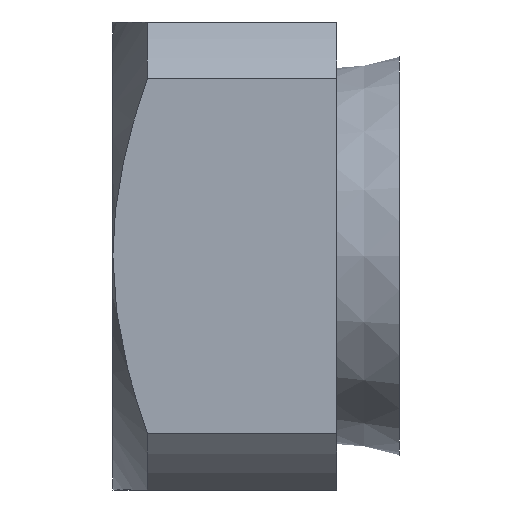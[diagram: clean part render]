
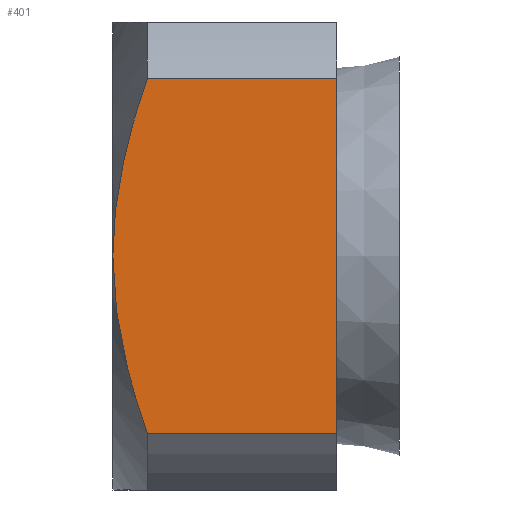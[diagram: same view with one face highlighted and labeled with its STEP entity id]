
A CAD part, left-side view. The second image highlights one B-rep face of the part: STEP entity #401.
In plain terms, the highlighted planar face has unit normal (-1, 0, 0).
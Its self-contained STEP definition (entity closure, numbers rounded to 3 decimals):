
#15=(
BOUNDED_CURVE()
B_SPLINE_CURVE(2,(#722,#723,#724),.UNSPECIFIED.,.F.,.F.)
B_SPLINE_CURVE_WITH_KNOTS((3,3),(0.197,0.971),
 .UNSPECIFIED.)
CURVE()
GEOMETRIC_REPRESENTATION_ITEM()
RATIONAL_B_SPLINE_CURVE((1.032,1.079,1.))
REPRESENTATION_ITEM('')
);
#16=(
BOUNDED_CURVE()
B_SPLINE_CURVE(2,(#725,#726,#727),.UNSPECIFIED.,.F.,.F.)
B_SPLINE_CURVE_WITH_KNOTS((3,3),(0.971,1.746),
 .UNSPECIFIED.)
CURVE()
GEOMETRIC_REPRESENTATION_ITEM()
RATIONAL_B_SPLINE_CURVE((1.,1.079,1.032))
REPRESENTATION_ITEM('')
);
#33=PLANE('',#477);
#60=FACE_OUTER_BOUND('',#88,.T.);
#88=EDGE_LOOP('',(#336,#337,#338,#339,#340));
#103=LINE('',#669,#121);
#112=LINE('',#710,#130);
#115=LINE('',#719,#133);
#121=VECTOR('',#543,10.);
#130=VECTOR('',#588,10.);
#133=VECTOR('',#597,10.);
#180=VERTEX_POINT('',#666);
#181=VERTEX_POINT('',#668);
#195=VERTEX_POINT('',#709);
#198=VERTEX_POINT('',#717);
#199=VERTEX_POINT('',#721);
#223=EDGE_CURVE('',#180,#181,#103,.T.);
#243=EDGE_CURVE('',#195,#181,#112,.T.);
#248=EDGE_CURVE('',#180,#198,#115,.T.);
#249=EDGE_CURVE('',#198,#199,#15,.T.);
#250=EDGE_CURVE('',#199,#195,#16,.T.);
#336=ORIENTED_EDGE('',*,*,#248,.T.);
#337=ORIENTED_EDGE('',*,*,#249,.T.);
#338=ORIENTED_EDGE('',*,*,#250,.T.);
#339=ORIENTED_EDGE('',*,*,#243,.T.);
#340=ORIENTED_EDGE('',*,*,#223,.F.);
#401=ADVANCED_FACE('',(#60),#33,.T.);
#477=AXIS2_PLACEMENT_3D('',#720,#598,#599);
#543=DIRECTION('',(0.,0.,-1.));
#588=DIRECTION('',(0.,-1.,0.));
#597=DIRECTION('',(0.,1.,0.));
#598=DIRECTION('center_axis',(-1.,0.,0.));
#599=DIRECTION('ref_axis',(0.,0.,-1.));
#666=CARTESIAN_POINT('',(-9.4,-9.,7.133));
#668=CARTESIAN_POINT('',(-9.4,-9.,-7.133));
#669=CARTESIAN_POINT('',(-9.4,-9.,-9.4));
#709=CARTESIAN_POINT('',(-9.4,-1.386,-7.133));
#710=CARTESIAN_POINT('',(-9.4,-4.5,-7.133));
#717=CARTESIAN_POINT('',(-9.4,-1.386,7.133));
#719=CARTESIAN_POINT('',(-9.4,-4.5,7.133));
#720=CARTESIAN_POINT('Origin',(-9.4,0.,9.4));
#721=CARTESIAN_POINT('',(-9.4,0.,0.));
#722=CARTESIAN_POINT('Ctrl Pts',(-9.4,-1.386,7.133));
#723=CARTESIAN_POINT('Ctrl Pts',(-9.4,0.,
3.163));
#724=CARTESIAN_POINT('Ctrl Pts',(-9.4,0.,
0.));
#725=CARTESIAN_POINT('Ctrl Pts',(-9.4,0.,
0.));
#726=CARTESIAN_POINT('Ctrl Pts',(-9.4,0.,
-3.163));
#727=CARTESIAN_POINT('Ctrl Pts',(-9.4,-1.386,-7.133));
